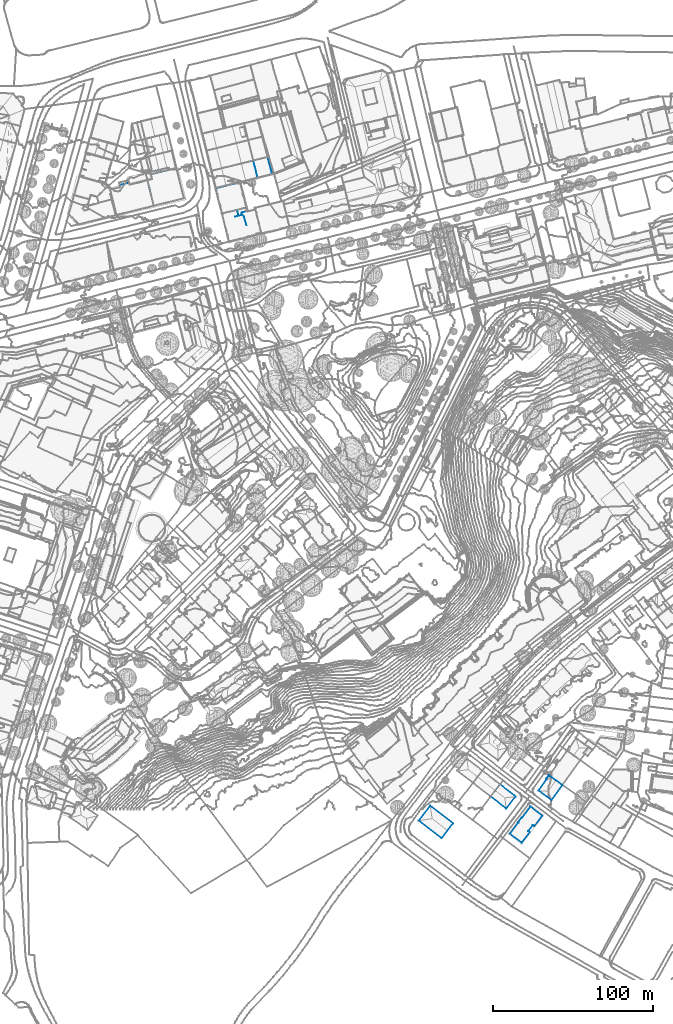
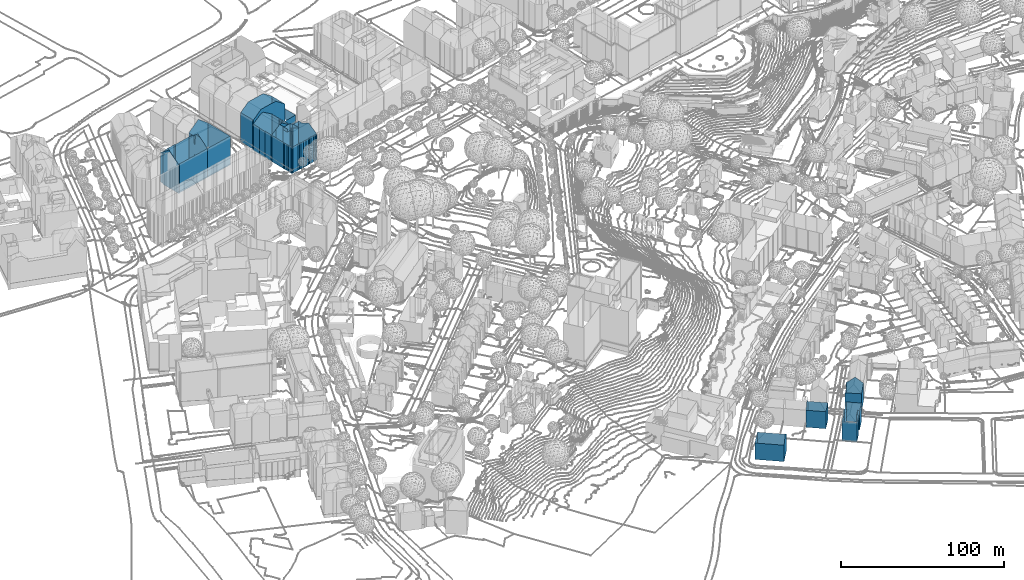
# Not in any storey, part 29 of 494: 9 walls.
"""IFC2X3 model written with IfcOpenShell, lengths in metres."""

from ifc_helpers import new_model, si_unit, frame, origin_with_axes, place, context, subcontext, project, faceted_brep, element, save


model = new_model("IFC2X3")

# Units and contexts
model_context = context("Model", 3, precision=1e-05, world=origin_with_axes())
body_context = subcontext(model_context, "Body", "Model", "MODEL_VIEW")
ifc_project = project(units=[si_unit("AREAUNIT", "SQUARE_METRE"), si_unit("LENGTHUNIT", "METRE")], contexts=[model_context])

# Walls
wall_1_placement = place(None, frame((351.9437320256, 10.5164160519, 499.6315), z_axis=(0.0, 0.0, 1.0), x_axis=(1.0, 0.0, 0.0)))
element("IfcWall", 1, at=wall_1_placement, Name="Wall 0", context=body_context, shape_type="Brep", body=[
    faceted_brep([(6.9640000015, 9.188500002, 14.2176), (10.7760000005, 6.4600000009, 0.0), (6.9640000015, 9.188500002, 0.0), (0.0, 0.0, 13.9787), (5.0899999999, 7.0692999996, 13.9787), (0.0, 0.0, 0.0), (4.7410000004, 7.3213, 0.0), (4.7410000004, 7.3213, 13.9787), (4.9010000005, 7.5439999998, 0.0), (5.0899999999, 7.0692999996, 0.0), (6.444000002, 9.5606000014, 14.2186), (6.444000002, 9.5606000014, 0.0), (4.9010000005, 7.5439999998, 14.1566), (6.3780000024, 9.6064999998, 0.0), (6.3780000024, 9.6064999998, 14.1506), (14.9299999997, 3.4853999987, 13.9786), (8.1790000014, -5.8896000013, 13.9786), (14.9299999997, 3.4853999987, 0.0), (10.7760000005, 6.4600000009, 18.1722), (8.1790000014, -5.8896000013, 0.0)], [[[0, 1, 2]], [[3, 4, 5]], [[6, 7, 8]], [[4, 6, 9]], [[6, 4, 7]], [[10, 0, 11]], [[12, 13, 8]], [[13, 14, 10]], [[11, 13, 10]], [[15, 16, 17]], [[18, 15, 1]], [[16, 3, 19]], [[18, 1, 0]], [[4, 9, 5]], [[12, 8, 7]], [[0, 2, 11]], [[12, 14, 13]], [[16, 19, 17]], [[15, 17, 1]], [[3, 5, 19]]]),
])
wall_2_placement = place(None, frame((277.0167320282, -8.246283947, 501.3544), z_axis=(0.0, 0.0, 1.0), x_axis=(1.0, 0.0, 0.0)))
element("IfcWall", 2, at=wall_2_placement, Name="Wall 0", context=body_context, shape_type="Brep", body=[
    faceted_brep([(0.0, 0.0, 12.3158), (7.1789999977, 9.2978999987, 12.3158), (0.0, 0.0, 0.0), (21.432, -1.7080000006, 12.3158), (7.1789999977, 9.2978999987, 0.0), (14.3549999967, -11.0839999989, 12.3158), (14.3549999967, -11.0839999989, 0.0), (21.432, -1.7080000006, 0.0), (18.0519999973, -6.1854999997, 16.7393)], [[[0, 1, 2]], [[1, 3, 4]], [[5, 0, 6]], [[7, 3, 5]], [[7, 5, 6]], [[5, 3, 8]], [[1, 4, 2]], [[3, 7, 4]], [[0, 2, 6]]]),
])
wall_3_placement = place(None, frame((334.0767320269, -16.4571839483, 500.2114), z_axis=(0.0, 0.0, 1.0), x_axis=(1.0, 0.0, 0.0)))
element("IfcWall", 3, at=wall_3_placement, Name="Wall 0", context=body_context, shape_type="Brep", body=[
    faceted_brep([(7.5119999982, 9.8857000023, 14.8056), (7.8929999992, 9.5967000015, 14.8056), (7.5119999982, 9.8857000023, 14.4916), (5.4620000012, 6.3916000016, 14.8056), (5.0780000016, 6.682599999, 14.8056), (5.0780000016, 6.682599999, 14.4896), (20.2369999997, 11.2978000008, 14.1707), (15.2030000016, 4.6728000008, 0.0), (20.2369999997, 11.2978000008, 8.8552), (20.2369999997, 11.2978000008, 0.0), (15.2030000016, 4.6728000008, 14.1747), (12.4439999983, 1.0428999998, 0.0), (12.4439999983, 1.0428999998, 14.1766), (8.6519999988, -3.9492000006, 14.1796), (7.3869999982, -5.6142999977, 3.5447), (7.3869999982, -5.6142999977, 8.8632), (7.3869999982, -5.6142999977, 0.0), (11.4890000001, 1.7675999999, 14.9356), (11.4890000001, 1.7675999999, 0.0), (14.2479999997, 5.3993999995, 0.0), (14.2479999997, 5.3993999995, 14.9336), (7.1849999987, 9.9530999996, 0.0), (7.1849999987, 9.9530999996, 14.9236), (7.4239999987, 9.7705000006, 0.0), (7.4239999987, 9.7705000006, 14.9246), (5.175999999, 7.307599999, 0.0), (5.175999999, 7.307599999, 15.1846), (6.1669999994, 8.6123000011, 16.2965), (12.8440000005, 16.9043000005, 14.4436), (19.8940000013, 11.557599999, 14.4426), (12.8440000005, 16.9043000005, 0.0), (0.0, 0.0, 0.0), (7.3869999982, -5.6142999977, 14.1806), (7.1919999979, -5.4657999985, 14.3356), (0.0, 0.0, 14.3406), (5.4149999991, 7.1259000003, 0.0), (0.1359999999, 0.1787, 14.4856), (5.4149999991, 7.126000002, 15.1836), (12.7949999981, 16.8388000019, 14.4966), (12.7949999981, 16.8388000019, 0.0)], [[[0, 1, 2]], [[3, 4, 5]], [[6, 7, 8]], [[8, 7, 9]], [[6, 10, 7]], [[11, 12, 13]], [[14, 13, 15]], [[16, 11, 14]], [[14, 11, 13]], [[17, 12, 11]], [[18, 17, 11]], [[17, 18, 19]], [[17, 19, 20]], [[7, 20, 19]], [[21, 22, 23]], [[24, 23, 22]], [[21, 25, 26]], [[26, 27, 22]], [[26, 22, 21]], [[8, 28, 29]], [[8, 30, 28]], [[29, 6, 8]], [[8, 9, 30]], [[16, 14, 31]], [[14, 15, 31]], [[32, 33, 15]], [[34, 31, 15]], [[34, 15, 33]], [[35, 31, 34]], [[34, 36, 35]], [[5, 4, 37]], [[37, 35, 5]], [[36, 5, 35]], [[37, 26, 25]], [[25, 35, 37]], [[0, 2, 24]], [[38, 28, 2]], [[24, 2, 23]], [[30, 39, 2]], [[23, 2, 39]], [[2, 28, 30]], [[32, 15, 13]], [[10, 20, 7]]]),
])
wall_4_placement = place(None, frame((322.0067320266, 6.8035160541, 500.5714), z_axis=(0.0, 0.0, 1.0), x_axis=(1.0, 0.0, 0.0)))
element("IfcWall", 4, at=wall_4_placement, Name="Wall 0", context=body_context, shape_type="Brep", body=[
    faceted_brep([(5.8610000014, 7.6503999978, 12.7678), (15.6110000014, 0.1103999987, 12.7678), (5.8610000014, 7.6503999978, 0.0), (9.7160000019, -7.5137000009, 12.7678), (15.6110000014, 0.1103999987, 0.0), (0.0, 0.0, 12.7678), (9.7160000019, -7.5137000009, 0.0), (2.9200000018, 3.811499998, 17.5223), (0.0, 0.0, 0.0), (2.9200000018, 3.811499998, 0.0)], [[[0, 1, 2]], [[1, 3, 4]], [[3, 5, 6]], [[5, 7, 0]], [[5, 0, 8]], [[9, 8, 0]], [[2, 9, 0]], [[1, 4, 2]], [[3, 6, 4]], [[5, 8, 6]]]),
])
wall_5_placement = place(None, frame((153.8417320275, 371.7576160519, 556.9797), z_axis=(0.0, 0.0, 1.0), x_axis=(1.0, 0.0, 0.0)))
element("IfcWall", 5, at=wall_5_placement, Name="Wall 0", context=body_context, shape_type="Brep", body=[
    faceted_brep([(15.6259999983, 2.8643000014, -0.527), (15.2799999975, 2.753899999, -19.1582), (15.6259999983, 2.8643000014, -19.1582), (15.2799999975, 2.753899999, -0.527), (15.5419999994, 3.3594000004, -0.523), (15.5040000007, 3.3447000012, -19.1582), (15.5419999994, 3.3594000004, -19.1582), (15.5659999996, 1.6026000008, -0.536), (9.4459999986, 2.3213, -0.536), (15.4069999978, 3.8672000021, -19.1582), (9.4459999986, 2.3213, -19.1582), (12.5519999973, -0.7265000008, 4.7045), (13.8509999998, -1.8016999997, 1.6688), (12.5519999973, -0.7265000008, 1.6688), (13.8509999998, -1.8016999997, 4.7085), (15.3509999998, -7.5819999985, 4.7085), (15.6919999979, -14.8691000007, -0.0931), (15.6919999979, -14.8691000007, -19.7052), (15.743999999, -14.9169999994, -0.1331), (15.743999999, -14.9169999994, -9.9281), (15.743999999, -14.9169999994, -19.7052), (13.8709999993, -15.3808000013, -14.8047), (13.8819999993, -15.3779000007, -19.7052), (13.8819999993, -15.3779000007, -0.1181), (13.8709999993, -15.3808000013, -9.9111), (13.9019999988, -15.3125, -19.7052), (13.9019999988, -15.3125, -0.0791), (11.629999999, -15.7588, 0.0029), (11.629999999, -15.7588, -6.4115), (11.6699999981, -15.9179999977, -9.9621), (11.629999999, -15.7588, -14.7787), (11.629999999, -15.7588, -19.7052), (11.6699999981, -15.9179999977, -19.7052), (3.5769999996, 0.8720999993, 2.5607), (6.5949999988, 1.5811000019, -19.7052), (3.5769999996, 0.8720999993, -19.7052), (0.0979999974, -0.4052999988, -19.7052), (0.0979999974, -0.4052999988, -0.005), (0.0390000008, -0.1591999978, -0.002), (0.0, 0.0001000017, -19.7052), (0.0, 0.0, 0.0), (0.1779999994, -0.3896000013, 0.0509), (0.1779999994, -0.3896000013, -19.7052), (2.574000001, -10.1543000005, -0.0571), (0.7769999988, -2.8310000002, 0.0239), (2.574000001, -10.1543000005, -19.7052), (2.5119999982, -10.1688000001, -19.7052), (2.5119999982, -10.1688999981, -0.1011), (2.7280000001, -11.0428999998, -0.1101), (2.7280000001, -11.0429999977, -19.7052), (2.7879999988, -11.0282999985, -19.7052), (3.318, -13.1854999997, -19.7052), (2.7879999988, -11.0282999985, -0.0671), (3.318, -13.1854999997, -0.0901), (3.4010000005, -13.1611000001, -19.7052), (3.7430000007, -14.5077999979, -0.0371), (3.4010000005, -13.1611000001, -0.0301), (3.7430000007, -14.5077999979, -19.7052), (3.6499999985, -14.5399999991, -0.1051), (4.186999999, -16.7285000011, -0.1301), (4.186999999, -16.7285000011, -19.7052), (3.6499999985, -14.5399999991, -19.7052), (4.1380000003, -16.7412, -0.1651), (4.1380000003, -16.7412, -19.7052), (8.9199999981, 2.1757999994, 2.4957), (9.4499999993, 2.3037, -0.536), (8.9199999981, 2.1757999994, -19.7052), (9.4499999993, 2.3037, 1.9938), (9.4499999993, 2.3037, -19.1582), (9.4499999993, 2.3037, -19.7052), (6.5949999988, 1.5811000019, 4.7085), (9.3559999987, -16.3222000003, 0.0529), (5.2039999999, -17.3515000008, 0.0759), (9.3559999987, -16.3222999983, -19.7052), (5.2039999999, -17.3515000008, -19.7052), (9.3399999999, -16.2617000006, -19.7052), (9.3399999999, -16.2617000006, 0.0939), (10.693, -15.9287, 0.0849), (10.693, -15.9287, -19.7052), (10.7119999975, -15.9862999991, -19.7052), (10.7119999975, -15.9862999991, -9.8501), (5.2159999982, -17.4012999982, 0.0419), (5.2159999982, -17.4012999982, -14.7937), (5.2159999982, -17.4013999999, -19.7052), (20.5949999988, 2.7637000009, 1.6688), (20.5639999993, 2.8936000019, 1.6688), (20.5949999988, 2.7637000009, -19.7052), (20.6499999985, 2.7851999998, 1.6688), (20.6499999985, 2.7851999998, -19.7052), (20.7109999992, 2.5362000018, 1.6688), (20.7109999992, 2.5362000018, -19.7052), (16.0089999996, 1.3584000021, 1.6688), (16.0089999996, 1.3584000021, -19.7052), (15.9199999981, 1.6953000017, 1.6688), (15.9199999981, 1.6953000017, -19.7052), (20.8440000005, 2.9658000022, 1.6688), (20.5639999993, 2.8936000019, -19.7052), (23.0189999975, -5.5918000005, 4.6685), (23.1359999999, -6.0790999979, 4.3735), (23.0189999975, -5.5918000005, -19.7052), (24.3640000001, -12.7333999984, -19.7052), (24.3640000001, -12.7333999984, -0.1531), (24.3330000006, -12.6229999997, -19.7052), (24.3330000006, -12.6229999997, -14.7977), (24.7939999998, -12.6220999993, -19.7052), (23.1359999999, -6.0790999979, -19.7052), (24.7939999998, -12.6220999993, -0.1531), (18.9068999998, -13.9686999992, -19.7052), (18.8829999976, -13.8847000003, 0.0509), (18.9069999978, -13.9686999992, -0.0071), (18.8829999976, -13.8847000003, -19.7052), (20.1400000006, -13.5771000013, 0.0329), (20.1400000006, -13.5771000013, -19.7052), (20.1659999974, -13.6572000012, -19.7052), (20.1659999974, -13.6572000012, -0.0231), (22.0969999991, -13.1766999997, -0.0481), (22.0969999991, -13.1766999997, -19.7052), (22.0779999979, -13.1024999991, -19.7052), (22.0779999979, -13.1024999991, 0.0029), (23.436999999, -12.7606999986, -0.0111), (23.436999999, -12.7606999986, -19.7052), (23.4609999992, -12.8388999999, -19.7052), (23.4609999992, -12.8388999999, -4.9886), (17.9230000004, -14.2128999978, -19.7052), (17.9609999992, -14.3662, -0.1291), (17.9609999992, -14.3662, -6.2805), (17.9230000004, -14.2128999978, -0.0221), (17.9609999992, -14.3662, -14.8917), (17.9609999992, -14.3662, -19.7052), (10.381000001, -1.2910000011, 1.9938), (10.381000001, -1.2910000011, -19.7052), (12.1769999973, 0.7177999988, 1.6688), (12.5519999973, -0.7265000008, -0.536), (12.5519999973, -0.7265000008, -19.1582), (12.1769999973, 0.7177999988, -19.1582), (12.5519999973, -0.7265000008, -19.7052), (10.3819999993, -1.2910000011, -19.1582), (15.4069999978, 3.8672000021, -0.521), (15.4349999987, 3.7608000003, -0.521), (15.4349999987, 3.7608000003, -19.1582), (15.5020000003, 3.509800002, -0.522), (7.5309999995, -2.0311999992, 4.7085), (10.381000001, -1.2910000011, 4.6965), (10.3819999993, -1.2910000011, -0.536), (14.9120000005, -15.061499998, -19.7052), (14.9120000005, -15.061499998, -0.0901), (17.7139999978, -14.4266999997, -0.1461), (17.7139999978, -14.4266999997, -19.7052), (16.873999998, -14.6356999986, -19.7052), (16.873999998, -14.6356999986, -0.1331), (15.9250000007, -14.8720999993, -0.1331), (13.4289999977, -15.4891999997, -0.1141), (13.8709999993, -15.3808000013, -5.0146), (12.430999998, -15.7313999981, -0.1051), (12.430999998, -15.7313999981, -19.7052), (13.4289999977, -15.4891999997, -19.7052), (11.6699999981, -15.9179999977, -0.1081), (4.3519999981, -17.615199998, -0.1741), (4.3519999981, -17.615199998, -19.7052), (4.6579999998, -17.5390000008, 0.0459), (4.6579999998, -17.5390000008, -19.7052), (10.9639999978, -15.9237999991, -19.7052), (11.5789999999, -15.7714999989, 0.0029), (10.9639999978, -15.9237999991, 0.0429), (10.7119999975, -15.9862999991, 0.0449), (21.5390000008, 0.1933999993, -19.7052), (20.8440000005, 2.9658000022, -19.7052), (21.5390000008, 0.1933999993, 1.6688), (22.2689999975, -2.6387000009, -19.7052), (22.2689999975, -2.6387000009, 3.1566), (24.3330000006, -12.6229999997, -4.9836), (24.1449999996, -12.6699000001, -19.7052), (24.1449999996, -12.6699000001, -0.0751), (24.3330000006, -12.6229999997, -0.0761), (23.4609999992, -12.8387999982, -0.0661), (18.2859999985, -14.1229999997, 0.0009), (12.1769999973, 0.7177999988, -0.536), (15.5659999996, 1.6015999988, 1.6688), (12.1769999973, 0.7177999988, -19.7052), (15.5659999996, 1.6015999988, -19.7052), (15.5659999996, 1.6026000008, -19.1582), (15.5040000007, 3.3447000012, -0.523)], [[[0, 1, 2]], [[0, 3, 1]], [[4, 5, 6]], [[3, 7, 1]], [[8, 9, 10]], [[11, 12, 13]], [[14, 15, 12]], [[16, 17, 18]], [[19, 18, 17]], [[19, 17, 20]], [[21, 22, 23]], [[23, 24, 21]], [[22, 25, 26]], [[27, 28, 29]], [[30, 29, 28]], [[30, 31, 29]], [[29, 31, 32]], [[33, 34, 35]], [[36, 37, 38]], [[39, 38, 40]], [[36, 38, 39]], [[41, 36, 42]], [[42, 43, 44]], [[45, 43, 42]], [[46, 47, 43]], [[43, 45, 46]], [[48, 46, 49]], [[48, 49, 50]], [[51, 52, 50]], [[51, 53, 52]], [[53, 51, 54]], [[55, 56, 57]], [[56, 54, 57]], [[55, 57, 58]], [[59, 58, 60]], [[58, 61, 60]], [[62, 59, 63]], [[39, 40, 33]], [[35, 39, 33]], [[64, 65, 66]], [[65, 64, 67]], [[68, 69, 66]], [[70, 64, 34]], [[71, 72, 73]], [[72, 74, 73]], [[73, 75, 76]], [[76, 75, 77]], [[77, 75, 78]], [[79, 80, 78]], [[77, 78, 80]], [[74, 81, 82]], [[74, 72, 81]], [[82, 83, 74]], [[84, 85, 86]], [[87, 84, 88]], [[89, 87, 90]], [[91, 89, 92]], [[93, 91, 94]], [[85, 95, 96]], [[97, 98, 99]], [[100, 101, 102]], [[101, 103, 102]], [[98, 104, 105]], [[106, 104, 98]], [[107, 108, 109]], [[108, 107, 110]], [[111, 110, 112]], [[112, 113, 114]], [[115, 113, 116]], [[117, 118, 116]], [[118, 115, 116]], [[119, 117, 120]], [[119, 118, 117]], [[121, 122, 120]], [[119, 120, 122]], [[123, 124, 125]], [[126, 124, 123]], [[127, 128, 123]], [[65, 10, 68]], [[67, 129, 65]], [[68, 130, 69]], [[13, 131, 132]], [[133, 134, 135]], [[136, 135, 130]], [[137, 138, 9]], [[138, 139, 9]], [[139, 138, 140]], [[139, 140, 4]], [[4, 6, 139]], [[141, 142, 129]], [[129, 142, 11]], [[13, 143, 129]], [[132, 143, 13]], [[13, 129, 11]], [[144, 17, 145]], [[17, 16, 145]], [[145, 26, 25]], [[144, 145, 25]], [[125, 124, 146]], [[128, 127, 147]], [[127, 148, 147]], [[125, 148, 127]], [[149, 125, 146]], [[149, 150, 19]], [[18, 19, 150]], [[20, 148, 19]], [[125, 19, 148]], [[19, 125, 149]], [[23, 151, 152]], [[24, 152, 153]], [[24, 154, 21]], [[22, 21, 155]], [[151, 153, 152]], [[153, 156, 29]], [[21, 154, 155]], [[29, 32, 154]], [[29, 154, 24]], [[24, 153, 29]], [[157, 63, 158]], [[63, 157, 62]], [[159, 157, 81]], [[82, 81, 157]], [[160, 83, 82]], [[158, 160, 82]], [[82, 157, 158]], [[161, 30, 28]], [[161, 31, 30]], [[28, 27, 162]], [[28, 163, 80]], [[80, 163, 164]], [[79, 161, 80]], [[161, 28, 80]], [[28, 162, 163]], [[165, 166, 167]], [[167, 168, 165]], [[169, 97, 99]], [[99, 168, 169]], [[169, 168, 167]], [[121, 103, 170]], [[102, 103, 171]], [[172, 170, 173]], [[172, 174, 122]], [[122, 121, 170]], [[103, 121, 171]], [[170, 172, 122]], [[107, 109, 175]], [[123, 107, 126]], [[107, 175, 126]], [[176, 131, 177]], [[178, 134, 179]], [[176, 177, 7]], [[180, 7, 93]], [[93, 7, 177]], [[180, 94, 179]], [[180, 93, 94]], [[181, 2, 5]], [[2, 181, 0]], [[181, 5, 4]], [[1, 7, 180]], [[137, 9, 8]], [[14, 12, 11]], [[24, 23, 152]], [[23, 22, 26]], [[27, 29, 156]], [[70, 34, 33]], [[37, 36, 41]], [[42, 44, 41]], [[47, 46, 48]], [[52, 48, 50]], [[56, 53, 54]], [[61, 58, 57]], [[59, 60, 63]], [[65, 68, 66]], [[64, 66, 34]], [[71, 73, 76]], [[164, 77, 80]], [[85, 96, 86]], [[84, 86, 88]], [[87, 88, 90]], [[89, 90, 92]], [[91, 92, 94]], [[95, 166, 96]], [[98, 105, 99]], [[101, 173, 170]], [[170, 103, 101]], [[104, 106, 100]], [[101, 100, 106]], [[108, 110, 111]], [[111, 112, 114]], [[114, 113, 115]], [[119, 122, 174]], [[125, 127, 123]], [[8, 10, 65]], [[129, 143, 65]], [[136, 130, 68]], [[131, 176, 132]], [[134, 178, 135]], [[133, 135, 136]], [[166, 95, 167]], [[134, 180, 179]]]),
])
wall_6_placement = place(None, frame((83.9137320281, 386.9188160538, 537.2696), z_axis=(0.0, 0.0, 1.0), x_axis=(1.0, 0.0, 0.0)))
element("IfcWall", 6, at=wall_6_placement, Name="Wall 0", context=body_context, shape_type="Brep", body=[
    faceted_brep([(5.5869999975, 4.2850999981, 6.0286), (11.4419999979, 5.7196999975, 6.0286), (5.5869999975, 4.2850999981, 0.7441), (4.1049999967, -16.193400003, 0.0), (3.4549999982, -16.3545000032, 10.809), (3.4549999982, -16.3545000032, 5.4035), (4.1049999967, -16.193400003, 21.6159), (3.4549999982, -16.3545000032, 21.6169), (3.4549999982, -16.3545000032, 0.0), (4.0590000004, -16.004900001, 16.3274), (4.0590000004, -16.004900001, 21.7699), (4.0590000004, -16.004900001, 5.4425), (4.0590000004, -16.004900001, 0.0), (0.9169999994, -6.327200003, 27.0304), (0.049999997, -2.8516000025, 24.2307), (0.9169999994, -6.327200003, 0.0), (0.049999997, -2.8516000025, 0.0), (0.5920000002, -2.3965000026, 23.9867), (0.5920000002, -2.3965000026, 17.9283), (0.5920000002, -2.3965000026, 11.8709), (0.5920000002, -2.3965000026, 5.8135), (0.5920000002, -2.3965000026, 0.0), (0.9709999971, 0.2274999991, 22.0579), (1.0169999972, 0.0975999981, 22.1659), (0.9709999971, 0.2274999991, 13.7457), (1.0169999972, 0.0975999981, 0.0), (0.9709999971, 0.2274999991, 0.0), (19.754999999, 4.7635999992, 0.0001), (14.9549999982, 3.5537, 22.2049), (17.748999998, 4.2577999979, 22.201), (12.1619999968, 2.8486000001, 11.1039), (12.1619999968, 2.8486000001, 0.0), (23.3349999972, 5.6668999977, 22.194), (23.3349999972, 5.6668999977, 5.5376), (23.3349999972, 5.6668999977, 11.0901), (23.3349999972, 5.6668999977, 0.0001), (5.9689999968, 2.7069999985, 0.7439), (11.8289999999, 4.1747999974, 0.0001), (5.9689999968, 2.7069999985, 0.0), (5.9689999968, 2.7069999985, 21.139), (11.8289999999, 4.1747999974, 21.1391), (5.9689999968, 2.7069999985, 6.0284), (27.2709999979, -10.2675999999, 0.0), (27.2709999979, -10.2675999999, 21.7039), (6.4389999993, -15.4170000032, 0.0), (6.4389999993, -15.4170000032, 21.7629), (1.3499999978, -8.0527999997, 28.4233), (1.5409999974, -8.8067000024, 27.8053), (1.3499999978, -8.0527999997, 0.0), (1.5409999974, -8.8067000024, 0.0), (0.2199999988, -0.8887000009, 22.7658), (0.0, 0.0, 22.0549), (0.0, 0.0, 0.0), (0.2199999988, -0.8887000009, 0.0), (5.4589999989, 1.2000999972, 0.0), (5.4589999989, 1.2000999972, 22.1719), (6.2839999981, 1.4051999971, 22.1759), (6.2839999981, 1.4051999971, 0.0), (0.3019999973, 0.0711999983, 22.0509), (11.4419999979, 5.7196999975, 0.7441), (11.8299999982, 4.1747999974, 0.7441), (11.8299999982, 4.1747999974, 6.0286), (12.1619999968, 2.8486000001, 22.2079), (24.3809999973, 1.431599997, 0.0), (25.2449999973, -2.0665000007, 0.0), (24.5249999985, 0.8495999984, 0.0), (25.106999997, -1.5069000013, 0.0), (25.930999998, -4.8438000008, 0.0), (24.3809999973, 1.431599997, 25.6056), (24.5249999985, 0.8495999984, 26.0695), (25.930999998, -4.8438000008, 26.1495), (24.8449999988, -0.447300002, 27.1194), (25.1119999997, -1.5293000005, 27.9903), (25.2449999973, -2.0665000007, 28.4233), (23.3349999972, 5.6668999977, 16.6415)], [[[0, 1, 2]], [[3, 4, 5]], [[3, 6, 7]], [[3, 5, 8]], [[6, 9, 10]], [[9, 6, 11]], [[12, 11, 6]], [[6, 3, 12]], [[13, 14, 15]], [[14, 16, 15]], [[14, 17, 16]], [[18, 16, 17]], [[19, 16, 18]], [[20, 21, 16]], [[22, 23, 24]], [[23, 25, 26]], [[27, 28, 29]], [[27, 30, 28]], [[30, 27, 31]], [[29, 32, 27]], [[33, 27, 34]], [[35, 27, 33]], [[36, 37, 38]], [[39, 40, 41]], [[9, 42, 43]], [[11, 44, 42]], [[43, 45, 9]], [[44, 11, 12]], [[11, 42, 9]], [[9, 45, 10]], [[46, 13, 47]], [[47, 13, 7]], [[7, 13, 4]], [[13, 15, 4]], [[4, 15, 48]], [[4, 48, 5]], [[5, 49, 8]], [[49, 5, 48]], [[50, 18, 17]], [[18, 50, 51]], [[51, 19, 18]], [[20, 19, 52]], [[20, 53, 21]], [[53, 20, 52]], [[19, 51, 52]], [[25, 23, 54]], [[55, 56, 57]], [[54, 23, 55]], [[54, 55, 57]], [[24, 52, 51]], [[51, 58, 24]], [[26, 52, 24]], [[24, 58, 22]], [[59, 1, 60]], [[37, 60, 31]], [[60, 1, 61]], [[61, 40, 30]], [[61, 30, 31]], [[61, 31, 60]], [[62, 30, 40]], [[56, 39, 41]], [[41, 0, 36]], [[56, 41, 57]], [[2, 36, 0]], [[36, 38, 57]], [[36, 57, 41]], [[35, 33, 63]], [[64, 33, 34]], [[33, 65, 63]], [[65, 33, 66]], [[33, 64, 66]], [[34, 67, 64]], [[34, 43, 67]], [[68, 69, 70]], [[70, 71, 72]], [[69, 71, 70]], [[70, 72, 73]], [[43, 34, 74]], [[67, 43, 42]], [[70, 43, 74]], [[74, 68, 70]], [[74, 32, 68]], [[1, 59, 2]], [[7, 4, 3]], [[19, 20, 16]], [[23, 26, 24]], [[30, 62, 28]], [[32, 74, 27]], [[74, 34, 27]], [[60, 37, 36]], [[40, 61, 41]]]),
])
wall_7_placement = place(None, frame((107.2487320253, 392.5857160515, 537.2697), z_axis=(0.0, 0.0, 1.0), x_axis=(1.0, 0.0, 0.0)))
element("IfcWall", 7, at=wall_7_placement, Name="Wall 0", context=body_context, shape_type="Brep", body=[
    faceted_brep([(10.6440000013, 5.8643000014, 10.1261), (10.370000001, 5.7959000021, 28.1223), (11.9920000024, 6.2002000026, 26.7535), (11.9570000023, 6.1914000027, 0.0), (9.9900000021, 5.7012000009, 0.0), (14.7710000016, 6.8916000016, 0.0), (13.4020000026, 6.5507999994, 5.5255), (17.501000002, 7.572300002, 22.1109), (17.5320000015, 7.5800999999, 0.0), (17.7050000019, 7.6231000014, 21.9379), (18.126000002, 7.7276000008, 21.582), (18.126000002, 7.7276000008, 0.0), (18.3320000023, 6.9013999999, 21.583), (18.3670000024, 6.7569000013, 0.0), (20.0, 0.1817000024, 21.5939), (19.518000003, 2.125, 0.0), (22.8420000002, -11.2626999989, -0.0001), (2.5960000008, -10.5106999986, 26.1494), (1.9100000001, -7.7333999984, -0.0001), (2.5960000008, -10.5106999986, -0.0001), (22.8010000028, -11.2733999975, 21.6488), (10.0230000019, -14.4305999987, 21.6858), (8.8470000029, -14.7206999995, -0.0001), (3.9360000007, -15.9344999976, -0.0001), (3.9360000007, -15.9344999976, 21.7038), (1.9100000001, -7.7333999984, 28.4232), (1.5100000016, -6.1141999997, 27.1193), (1.1900000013, -4.8172999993, 26.0694), (1.5100000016, -6.1141999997, -0.0001), (1.0460000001, -4.2353000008, 25.6055), (1.1900000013, -4.8172999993, -0.0001), (2.7230000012, 0.7930000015, 22.1099), (2.7360000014, 0.7959000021, 0.0), (2.620000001, 0.7666000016, 22.1099), (2.6201000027, 0.7666999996, 0.0), (2.6451000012, 0.6669999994, 0.0), (2.6449999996, 0.6669999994, 22.1899), (0.0, 0.0, 0.0), (0.0, 0.0, 22.1939), (1.0810000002, 0.2734999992, 22.1919), (1.0460000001, -4.2353000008, -0.0001), (2.1040000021, 3.7364000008, 22.1489), (4.4160000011, 4.3115999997, 23.9827), (4.5420000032, 4.3428000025, 0.0), (6.0980000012, 4.7314999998, 25.3166), (2.1040000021, 3.7364000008, 0.0), (7.4600000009, 5.0703999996, 0.0), (6.120000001, 4.7364000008, 8.8372), (2.8280000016, 0.8183999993, 22.1439), (2.8280000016, 0.8183999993, 0.0), (2.7860000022, 0.8077000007, 22.1109), (7.4590000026, 5.0703999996, 26.3955), (8.3500000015, 5.2919999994, 27.1034), (8.4170000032, 5.308600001, 10.28), (13.3550000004, 6.5391000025, 25.6046), (22.8417000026, -11.2626999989, 21.6138), (10.0130000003, 5.7071000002, 28.4233)], [[[0, 1, 2]], [[0, 2, 3]], [[0, 3, 4]], [[5, 3, 6]], [[5, 7, 8]], [[9, 10, 11]], [[11, 10, 12]], [[12, 13, 11]], [[13, 12, 14]], [[15, 13, 14]], [[16, 15, 14]], [[17, 18, 19]], [[16, 20, 21]], [[22, 16, 21]], [[23, 22, 24]], [[19, 24, 17]], [[19, 23, 24]], [[25, 26, 18]], [[26, 27, 28]], [[27, 29, 30]], [[31, 32, 33]], [[34, 33, 32]], [[35, 36, 33]], [[33, 34, 35]], [[37, 38, 39]], [[36, 35, 39]], [[39, 35, 37]], [[29, 38, 40]], [[38, 37, 40]], [[41, 42, 43]], [[42, 44, 43]], [[41, 43, 45]], [[44, 46, 47]], [[43, 47, 46]], [[48, 45, 49]], [[48, 41, 45]], [[48, 32, 50]], [[48, 49, 32]], [[46, 51, 52]], [[52, 53, 46]], [[53, 52, 4]], [[53, 4, 46]], [[4, 1, 0]], [[54, 3, 2]], [[54, 5, 6]], [[7, 5, 54]], [[54, 6, 3]], [[8, 7, 9]], [[9, 11, 8]], [[20, 16, 55]], [[55, 16, 14]], [[25, 18, 17]], [[22, 21, 24]], [[26, 28, 18]], [[27, 30, 28]], [[29, 40, 30]], [[50, 32, 31]], [[43, 44, 47]], [[51, 46, 44]], [[56, 1, 52]], [[1, 4, 52]]]),
])
wall_8_placement = place(None, frame((149.980732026, 387.552516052, 537.2746), z_axis=(0.0, 0.0, 1.0), x_axis=(1.0, 0.0, 0.0)))
element("IfcWall", 8, at=wall_8_placement, Name="Wall 0", context=body_context, shape_type="Brep", body=[
    faceted_brep([(12.7809999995, -13.6191000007, 24.4136), (10.438000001, -14.191399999, 24.4136), (12.7809999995, -13.6191000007, -0.0001), (6.3269999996, 1.6015999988, 24.4136), (8.6750000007, 2.2109999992, 24.4136), (6.3269999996, 1.6015999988, 0.0), (0.0, 0.0, 0.0), (0.0490000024, -0.1992000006, 19.8601), (0.0, 0.0, 19.8621), (0.0490000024, -0.1992000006, 0.0), (0.0980000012, -0.186499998, 19.8951), (0.444000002, -1.5780999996, 4.9625), (0.4149999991, -1.4618999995, 12.4248), (0.0980000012, -0.186499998, 0.0), (0.2420000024, -0.7655999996, 8.6991), (0.5529999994, -2.0174999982, 19.8801), (0.5590000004, -2.0419000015, 0.0), (0.3100000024, -1.0390000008, 19.8881), (0.9680000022, -3.6854999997, 4.9605), (1.376000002, -5.3310000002, 0.0), (1.376000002, -5.3310000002, 19.8601), (1.0379999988, -3.9677000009, 19.8691), (1.2210000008, -5.3691000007, 0.0), (1.2210000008, -5.3691000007, 19.7501), (2.4120000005, -10.2274999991, 19.7091), (1.8170000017, -7.7978000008, -0.0001), (2.4120000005, -10.2274999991, -0.0001), (2.568, -10.1893999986, -0.0001), (2.568, -10.1893999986, 19.82), (2.811999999, -11.182599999, 19.812), (2.8139999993, -11.1933000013, -0.0001), (2.9120000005, -11.5907999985, -0.0001), (2.8540000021, -11.3544999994, 19.81), (2.9100000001, -11.5810000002, 19.807), (7.438000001, -14.9228000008, 22.2658), (10.438000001, -14.191399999, -0.0001), (3.4019999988, -13.5859000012, -0.0001), (3.5450000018, -14.1708999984, 11.7328), (3.1440000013, -12.5361000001, 11.1319), (3.8320000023, -15.3387999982, 19.766), (3.262000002, -13.0165999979, 19.792), (3.8320000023, -15.3387999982, -0.0001), (3.754999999, -15.3574000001, 19.7111), (3.7990000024, -15.5410000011, 19.7091), (3.754999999, -15.3574000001, -0.0001), (3.8610000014, -15.7949000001, -0.0001), (3.8610000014, -15.7949000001, 19.7051), (7.438000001, -14.9228000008, -0.0001), (15.7580000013, 3.7831999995, 4.6166), (15.699000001, 3.7696000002, 19.4062), (15.618999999, 3.7490999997, 4.7166), (15.4800000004, 3.7138999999, 4.8166), (15.8969999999, 3.8183999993, 0.0001), (15.9160000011, 3.8233000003, 19.2492), (15.3410000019, 3.6788000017, 19.6632), (15.3410000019, 3.6788000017, 0.0001), (15.4800000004, 3.7138999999, 19.5642), (15.9299999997, 4.0293000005, 19.2052), (8.6750000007, 2.2109999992, 0.0), (13.307, -13.4736000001, 24.0336), (13.307, -13.4736000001, -0.0001), (15.6469999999, 2.4365999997, 19.6741), (15.6480000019, 2.4345999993, -0.0001), (19.186999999, -11.6268999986, 19.731), (19.186999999, -11.6268999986, -0.0001), (19.1440000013, -11.6367000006, 19.762), (17.6590000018, -5.7021000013, 19.732), (17.6590000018, -5.7021000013, -0.0001), (19.1440000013, -11.6367000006, -0.0001), (17.751000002, -5.6678999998, -0.0001), (17.751000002, -5.6678999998, 19.6641), (17.5069999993, -4.6893999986, -0.0001), (17.5069999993, -4.6893999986, 19.6581), (17.1220000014, -4.753899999, -0.0001), (17.1840000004, -3.4237999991, -0.0001), (17.1840000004, -3.4237999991, 19.6561), (16.7939999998, -3.490199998, 19.932), (16.7939999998, -3.490199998, -0.0001), (16.9039999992, -2.3623000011, -0.0001), (16.8310000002, -2.3623000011, 19.7101), (16.8310000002, -2.3623000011, -0.0001), (15.6750000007, 2.3262000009, -0.0001), (15.6750000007, 2.3282000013, 19.6751), (16.0370000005, 0.8603999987, 19.6861), (16.2530000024, -0.0174999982, -0.0001), (19.2679999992, -11.927699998, 19.729), (19.2679999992, -11.927699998, -0.0001), (15.9580000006, 3.8339999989, 4.7726), (15.9580000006, 3.8339999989, 19.2202), (15.938000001, 3.8291000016, 4.7916), (15.9790000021, 3.8388999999, 19.2052), (15.9790000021, 3.8388999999, 0.0001), (15.938000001, 3.8291000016, 19.2342), (15.9169999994, 3.8233000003, 4.8016), (15.9299999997, 4.0294000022, 0.0001), (17.1220000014, -4.753899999, 19.93), (16.9039999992, -2.3623000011, 19.6611)], [[[0, 1, 2]], [[3, 4, 5]], [[6, 7, 8]], [[7, 6, 9]], [[7, 9, 10]], [[11, 12, 13]], [[13, 12, 14]], [[15, 14, 12]], [[11, 16, 12]], [[16, 11, 13]], [[17, 10, 14]], [[6, 8, 3]], [[5, 6, 3]], [[18, 15, 16]], [[19, 20, 21]], [[19, 21, 18]], [[18, 16, 19]], [[22, 20, 19]], [[22, 23, 20]], [[24, 25, 26]], [[25, 24, 22]], [[27, 28, 24]], [[24, 26, 27]], [[29, 27, 30]], [[28, 27, 29]], [[31, 32, 30]], [[31, 33, 32]], [[1, 34, 35]], [[36, 37, 38]], [[37, 39, 40]], [[40, 38, 37]], [[39, 37, 41]], [[36, 41, 37]], [[40, 33, 38]], [[36, 38, 31]], [[33, 31, 38]], [[42, 39, 41]], [[43, 44, 45]], [[34, 46, 47]], [[48, 49, 50]], [[50, 49, 51]], [[49, 52, 53]], [[48, 52, 49]], [[52, 48, 50]], [[54, 55, 56]], [[56, 55, 51]], [[50, 51, 55]], [[50, 55, 52]], [[4, 57, 58]], [[59, 2, 60]], [[61, 62, 55]], [[63, 64, 65]], [[66, 65, 67]], [[68, 67, 65]], [[66, 69, 70]], [[67, 69, 66]], [[69, 71, 72]], [[71, 73, 72]], [[74, 75, 76]], [[76, 77, 74]], [[75, 74, 78]], [[79, 78, 80]], [[81, 82, 83]], [[84, 83, 80]], [[84, 81, 83]], [[83, 79, 80]], [[85, 60, 86]], [[60, 85, 59]], [[64, 63, 85]], [[87, 88, 89]], [[90, 87, 91]], [[87, 89, 91]], [[91, 89, 52]], [[92, 53, 89]], [[53, 52, 93]], [[93, 52, 89]], [[57, 90, 94]], [[90, 91, 94]], [[1, 35, 2]], [[4, 58, 5]], [[13, 10, 9]], [[17, 14, 15]], [[16, 15, 12]], [[10, 13, 14]], [[21, 15, 18]], [[24, 23, 22]], [[29, 30, 32]], [[34, 47, 35]], [[44, 42, 41]], [[46, 43, 45]], [[42, 44, 43]], [[46, 45, 47]], [[49, 56, 51]], [[57, 94, 58]], [[0, 2, 59]], [[61, 82, 62]], [[82, 81, 62]], [[61, 55, 54]], [[65, 64, 68]], [[70, 69, 72]], [[73, 95, 72]], [[95, 73, 76]], [[76, 73, 77]], [[78, 96, 75]], [[96, 78, 79]], [[85, 86, 64]], [[89, 53, 93]], [[92, 89, 88]], [[88, 87, 90]]]),
])
wall_9_placement = place(None, frame((147.4227320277, 398.5125160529, 538.0286), z_axis=(0.0, 0.0, 1.0), x_axis=(1.0, 0.0, 0.0)))
element("IfcWall", 9, at=wall_9_placement, Name="Wall 0", context=body_context, shape_type="Brep", body=[
    faceted_brep([(37.8039999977, -1.878899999, 8.0922), (28.7630000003, -4.4893000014, 8.0922), (37.8039999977, -1.878899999, 0.363), (35.0139999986, 8.6728999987, 8.0922), (35.0139999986, 8.6728999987, 0.363), (2.5579999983, -10.9600000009, 21.8578), (2.5059999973, -10.7402000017, -0.0001), (2.5579999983, -10.9600000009, -0.0001), (2.5059999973, -10.7402000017, 21.8618), (8.8849999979, -9.3584000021, 26.9193), (8.8849999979, -9.3584000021, -0.0001), (2.4759999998, -10.628899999, 21.8588), (2.4479999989, -10.5175999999, 21.8578), (2.4479999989, -10.5175999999, 5.4614), (2.4199999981, -10.4072000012, 21.8568), (2.4199999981, -10.4072000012, 5.4604), (2.4759999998, -10.628899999, 5.4624), (2.3919999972, -10.2950000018, 21.8568), (2.3919999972, -10.2949000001, -0.0001), (11.2329999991, -8.7490000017, 26.9193), (11.2329999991, -8.7490000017, -0.0001), (18.487999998, -6.9307000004, 26.9194), (18.487999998, -6.9307000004, 0.0), (21.2209999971, -6.3515999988, 26.9194), (21.2209999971, -6.3515999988, 0.0), (26.0639999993, 6.4569999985, 0.363), (28.7630000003, -4.4893000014, 0.363), (26.0639999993, 6.4569999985, 0.0), (26.0639999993, 6.4569999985, 21.128), (26.0639999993, 6.4569999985, 8.0922), (2.5519999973, -10.254900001, 21.9848), (1.0929999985, -4.3925999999, 21.9789), (2.5519999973, -10.254900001, -0.0001), (1.0929999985, -4.3925999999, 0.0), (0.0, 0.0, 21.9749), (0.0, 0.0, 0.0), (27.9679999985, -4.6854999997, 0.0), (28.7639999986, -4.4893000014, 0.0), (27.9679999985, -4.6854999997, 21.7389), (28.7639999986, -4.4893000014, 21.128), (0.7219999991, 0.1796999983, 22.5509), (6.1919999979, 1.5341999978, 0.0), (0.7219999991, 0.1796999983, 0.0), (18.5240000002, 4.5878999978, 0.0), (6.1919999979, 1.5341999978, 26.9195), (18.5240000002, 4.5878999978, 26.9194)], [[[0, 1, 2]], [[3, 0, 4]], [[5, 6, 7]], [[6, 5, 8]], [[9, 5, 10]], [[11, 12, 13]], [[13, 14, 15]], [[8, 11, 6]], [[6, 16, 13]], [[14, 17, 15]], [[13, 15, 18]], [[13, 18, 6]], [[19, 9, 20]], [[21, 19, 22]], [[23, 21, 24]], [[25, 26, 27]], [[28, 1, 29]], [[30, 31, 32]], [[32, 31, 33]], [[33, 34, 35]], [[34, 33, 31]], [[18, 17, 32]], [[17, 30, 32]], [[26, 1, 36]], [[36, 37, 26]], [[1, 24, 36]], [[23, 1, 38]], [[24, 1, 23]], [[38, 1, 39]], [[29, 34, 40]], [[29, 41, 34]], [[42, 35, 34]], [[29, 43, 41]], [[42, 34, 41]], [[40, 44, 45]], [[28, 29, 40]], [[29, 25, 43]], [[27, 43, 25]], [[4, 25, 3]], [[45, 28, 40]], [[1, 26, 2]], [[0, 2, 4]], [[5, 7, 10]], [[11, 13, 16]], [[12, 14, 13]], [[11, 16, 6]], [[17, 18, 15]], [[9, 10, 20]], [[19, 20, 22]], [[21, 22, 24]], [[26, 37, 27]], [[39, 1, 28]], [[25, 29, 3]]]),
])

save(model, "model.ifc")
